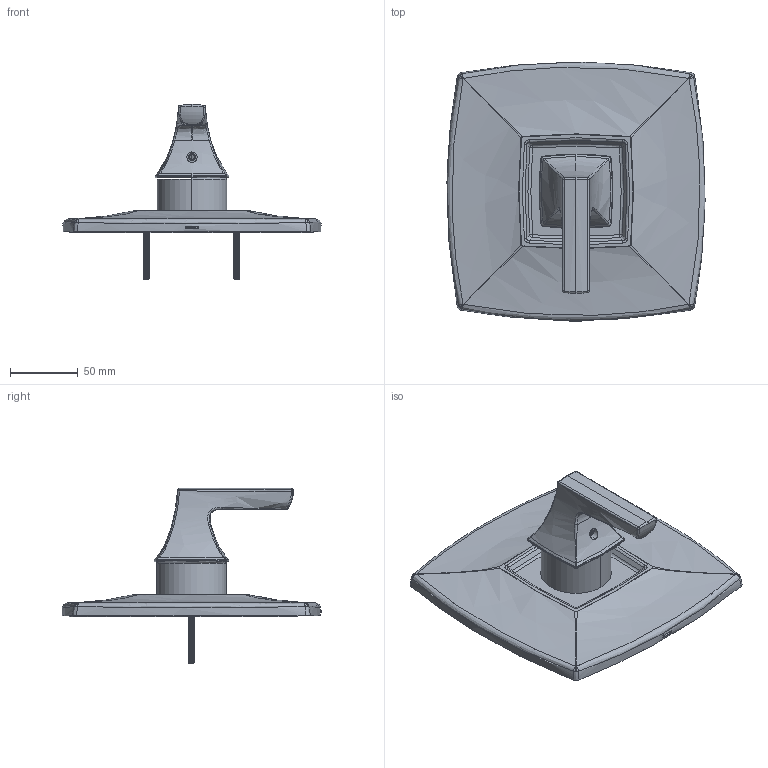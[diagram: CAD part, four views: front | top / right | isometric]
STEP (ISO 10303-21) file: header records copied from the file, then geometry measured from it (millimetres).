
FILE_DESCRIPTION (( 'STEP AP214' ), '1' );
FILE_NAME ('5690TRM.STEP', '2025-01-02T06:09:18', ( '' ), ( '' ), 'SwSTEP 2.0', 'SolidWorks 2023', '' );
FILE_SCHEMA (( 'AUTOMOTIVE_DESIGN' ));
Products named in the file (1): 5690TRM
Bounding box: 190.4 x 191.37 x 129.22 mm (x, y, z)
Surface area: 144001 mm2 (no closed solid volume)
Topology: 0 solids, 103 shells, 1080 faces, 3193 edges, 2164 vertices
Faces by surface type: cylinder 456, plane 250, cone 201, bspline 162, sphere 7, torus 4
Entity records: 91772 total; most frequent: CARTESIAN_POINT 65722, ORIENTED_EDGE 5375, DIRECTION 4693, EDGE_CURVE 3187, VERTEX_POINT 2164, AXIS2_PLACEMENT_3D 1726, VECTOR 1241, LINE 1241
